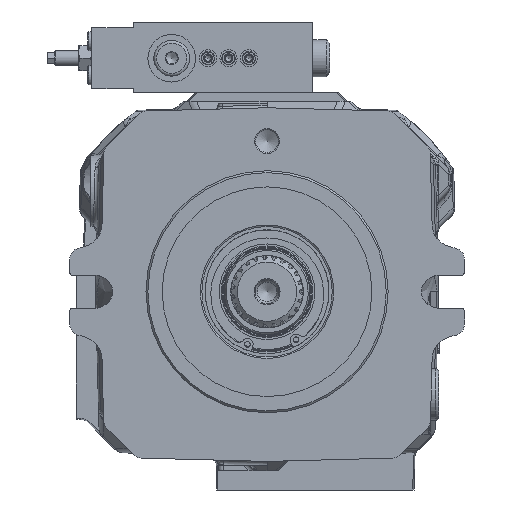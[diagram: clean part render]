
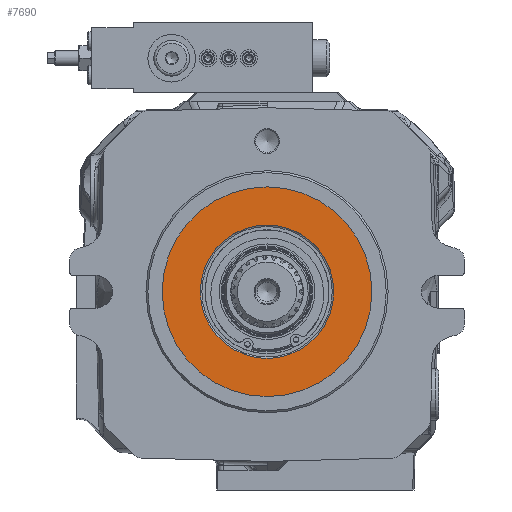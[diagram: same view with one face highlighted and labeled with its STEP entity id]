
A CAD part, front view. The second image highlights one B-rep face of the part: STEP entity #7690.
In plain terms, the highlighted planar face has unit normal (0, -1, 0).
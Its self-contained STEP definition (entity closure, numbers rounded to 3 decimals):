
#7690=ADVANCED_FACE('',(#13352,#13353),#8656,.T.);
#8656=PLANE('',#40196);
#13352=FACE_BOUND('',#16327,.T.);
#13353=FACE_BOUND('',#16328,.T.);
#16327=EDGE_LOOP('',(#26290));
#16328=EDGE_LOOP('',(#26291));
#26290=ORIENTED_EDGE('',*,*,#34915,.T.);
#26291=ORIENTED_EDGE('',*,*,#34930,.F.);
#29856=VERTEX_POINT('',#76820);
#29869=VERTEX_POINT('',#76855);
#34915=EDGE_CURVE('',#29856,#29856,#36473,.T.);
#34930=EDGE_CURVE('',#29869,#29869,#36484,.T.);
#36473=CIRCLE('',#40176,55.);
#36484=CIRCLE('',#40194,35.);
#40176=AXIS2_PLACEMENT_3D('',#76819,#49380,#49381);
#40194=AXIS2_PLACEMENT_3D('',#76854,#49420,#49421);
#40196=AXIS2_PLACEMENT_3D('',#76857,#49424,#49425);
#49380=DIRECTION('',(0.,-1.,0.));
#49381=DIRECTION('',(0.,0.,-1.));
#49420=DIRECTION('',(0.,-1.,0.));
#49421=DIRECTION('',(0.,0.,-1.));
#49424=DIRECTION('',(0.,-1.,0.));
#49425=DIRECTION('',(0.,0.,-1.));
#76819=CARTESIAN_POINT('',(0.,-11.7,0.));
#76820=CARTESIAN_POINT('',(0.,-11.7,-55.));
#76854=CARTESIAN_POINT('',(0.,-11.7,0.));
#76855=CARTESIAN_POINT('',(0.,-11.7,-35.));
#76857=CARTESIAN_POINT('',(0.,-11.7,35.));
